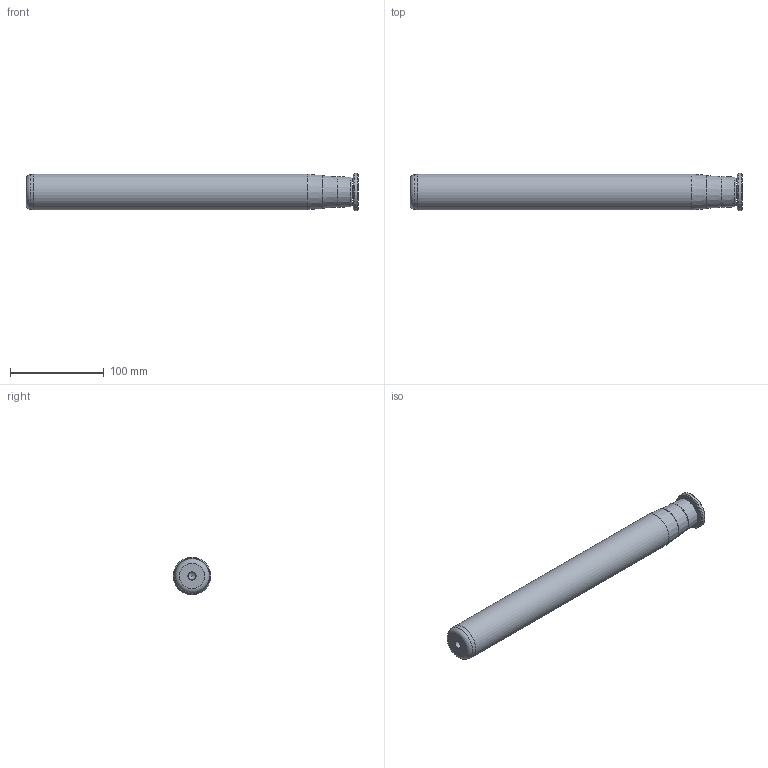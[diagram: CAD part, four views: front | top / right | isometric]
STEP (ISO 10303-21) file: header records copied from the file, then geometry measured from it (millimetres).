
FILE_DESCRIPTION(/* description */ ('Impex Ready, www.impex-ready.pl'),/* implementation_level */ '2;1');
FILE_NAME(/* name */ 'C:\Users\VIKKY\Nextcloud\SM\projekt 10 - części na stronę internetową\Pliki_3D_new\270 Słupy C5A\270_Słupy_C5A_STEP\C5A38315.ipt.step',/* time_stamp */ '2021-12-17T12:30:24+01:00',/* author */ ('SM'),/* organization */ (''),/* preprocessor_version */ 'ST-DEVELOPER v18.1',/* originating_system */ 'Autodesk Inventor 2021',/* authorisation */ '');
FILE_SCHEMA (('AUTOMOTIVE_DESIGN { 1 0 10303 214 3 1 1 }','FEATURE_BASED_PROCESS_PLANNING'));
Length unit declared in the file: millimetre
Products named in the file (1): C5A38315
Bounding box: 354 x 40 x 40 mm (x, y, z)
Volume: 388136.5 mm3; surface area: 47510.3 mm2
Topology: 3 solids, 3 shells, 61 faces, 134 edges, 81 vertices
Faces by surface type: plane 32, cone 16, cylinder 7, torus 6
Full cylindrical faces by diameter (mm): 8 x3, 10.5 x1, 15.879 x1, 38 x1, 40 x1
Entity records: 1769 total; most frequent: DIRECTION 309, CARTESIAN_POINT 298, ORIENTED_EDGE 262, EDGE_CURVE 131, AXIS2_PLACEMENT_3D 128, VERTEX_POINT 81, EDGE_LOOP 68, CIRCLE 66
